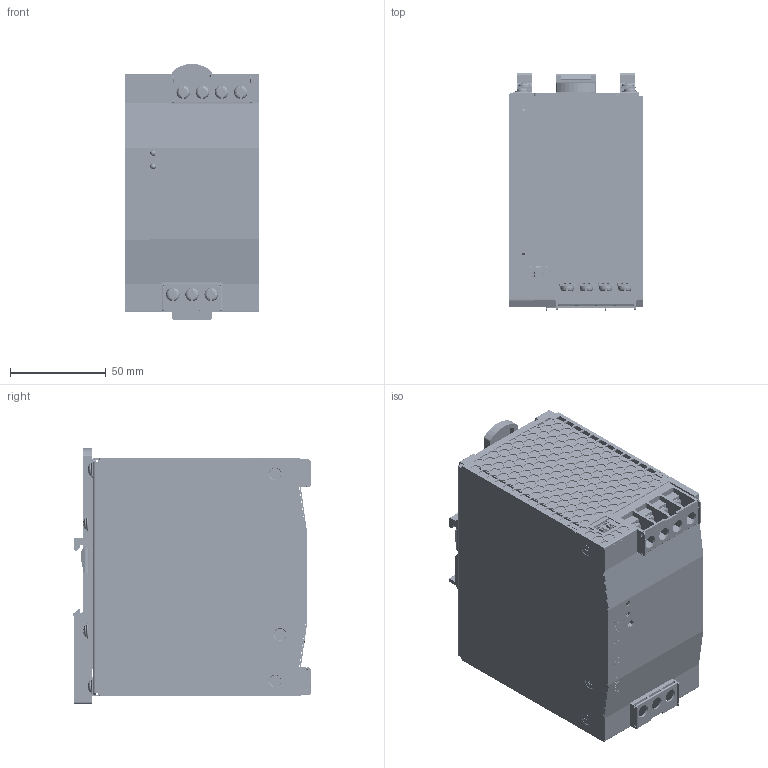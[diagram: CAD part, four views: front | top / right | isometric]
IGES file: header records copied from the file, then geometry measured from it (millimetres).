
Start section: Elysium IGES Interface
Global section: file name: 52HY:\data\KHA\3D\KHNA-XUB\提出用\khna480f-xub(igs).igs; native system: CoCreate Modeling 17.0  01-Apr-2010; preprocessor: CoCreate IGES_3D V2.2; author: Unknown; organization: Unknown; date: 20161130.162930; units: millimetre
Bounding box: 70 x 123.7 x 133.45 mm (x, y, z)
Volume: 915506.5 mm3; surface area: 120234.7 mm2
Topology: 1 solids, 31 shells, 8401 faces, 24611 edges, 16218 vertices
Faces by surface type: bspline 8401
